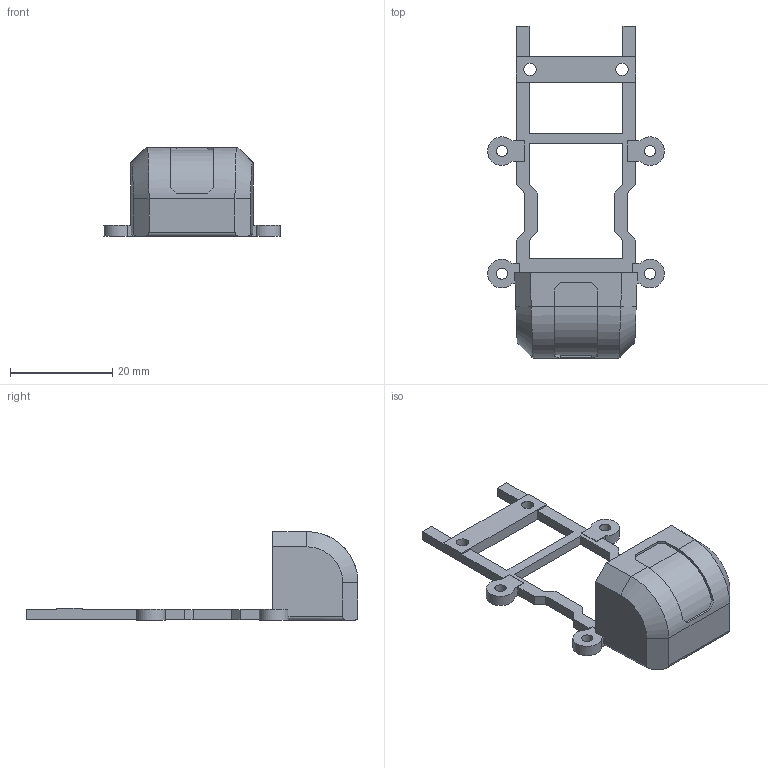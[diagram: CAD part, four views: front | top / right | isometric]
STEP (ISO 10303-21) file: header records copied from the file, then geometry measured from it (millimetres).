
FILE_DESCRIPTION(('Open CASCADE Model'),'2;1');
FILE_NAME('Open CASCADE Shape Model','2026-10-07T23:26:36',('Author'),( 'Open CASCADE'),'Open CASCADE STEP processor 7.9','Open CASCADE 7.9' ,'Unknown');
FILE_SCHEMA(('AUTOMOTIVE_DESIGN { 1 0 10303 214 1 1 1 1 }'));
Length unit declared in the file: millimetre
Products named in the file (1): Open CASCADE STEP translator 7.9 2
Bounding box: 34.58 x 65 x 17.4 mm (x, y, z)
Volume: 2897.7 mm3; surface area: 4224.5 mm2
Topology: 1 solids, 1 shells, 126 faces, 376 edges, 250 vertices
Faces by surface type: plane 100, cylinder 22, bspline 4
Full cylindrical faces by diameter (mm): 2.2 x4, 2.4 x2
Entity records: 9472 total; most frequent: CARTESIAN_POINT 2241, DIRECTION 1248, LINE 864, VECTOR 864, ORIENTED_EDGE 752, PCURVE 752, DEFINITIONAL_REPRESENTATION 752, EDGE_CURVE 376
